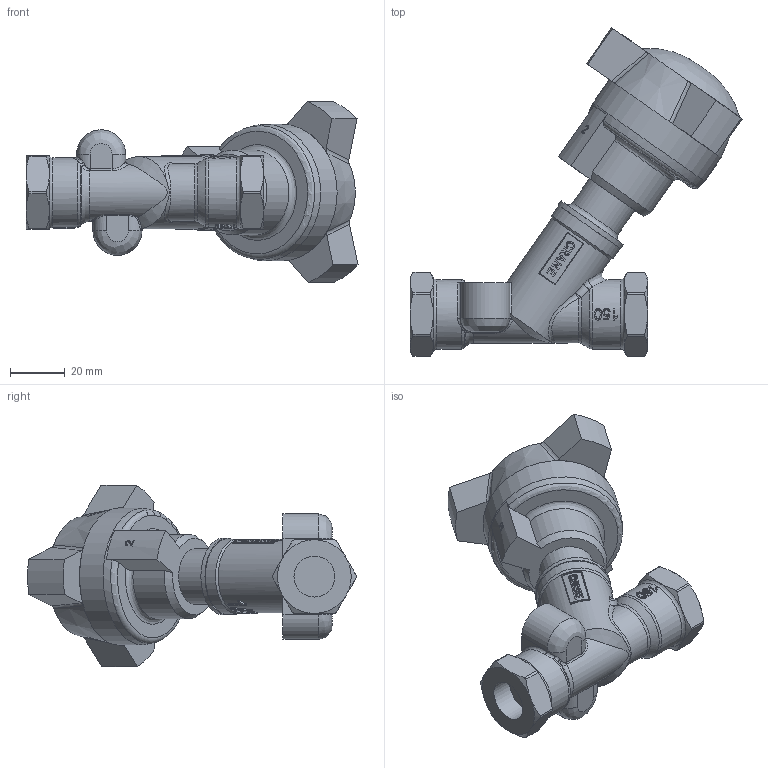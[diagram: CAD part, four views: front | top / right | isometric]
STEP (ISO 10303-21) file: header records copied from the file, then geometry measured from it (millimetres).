
FILE_DESCRIPTION((''),'2;1');
FILE_NAME('P:\Fastrack\53972_CRANE 3D\Workspace\CRANE\D921_1-2in\D921_1-2inA.stp','2011-03-04T10:15:42',('btaylor'),(''),'Autodesk Inventor 2008','Autodesk Inventor 2008','');
FILE_SCHEMA(('AUTOMOTIVE_DESIGN { 1 0 10303 214 1 1 1 1 }'));
Length unit declared in the file: millimetre
Products named in the file (1): D921_1-2inA
Bounding box: 121.59 x 120.36 x 66.44 mm (x, y, z)
Volume: 154928.9 mm3; surface area: 25584.6 mm2
Topology: 1 solids, 1 shells, 705 faces, 1917 edges, 1264 vertices
Faces by surface type: bspline 326, plane 291, cylinder 64, cone 21, torus 3
Full cylindrical faces by diameter (mm): 20.3 x1, 25.4 x2, 26.4 x1, 27.5 x1, 28 x1, 50 x1
Entity records: 66084 total; most frequent: CARTESIAN_POINT 49989, ORIENTED_EDGE 3774, DIRECTION 2104, EDGE_CURVE 1887, VERTEX_POINT 1253, VECTOR 916, LINE 916, EDGE_LOOP 774
